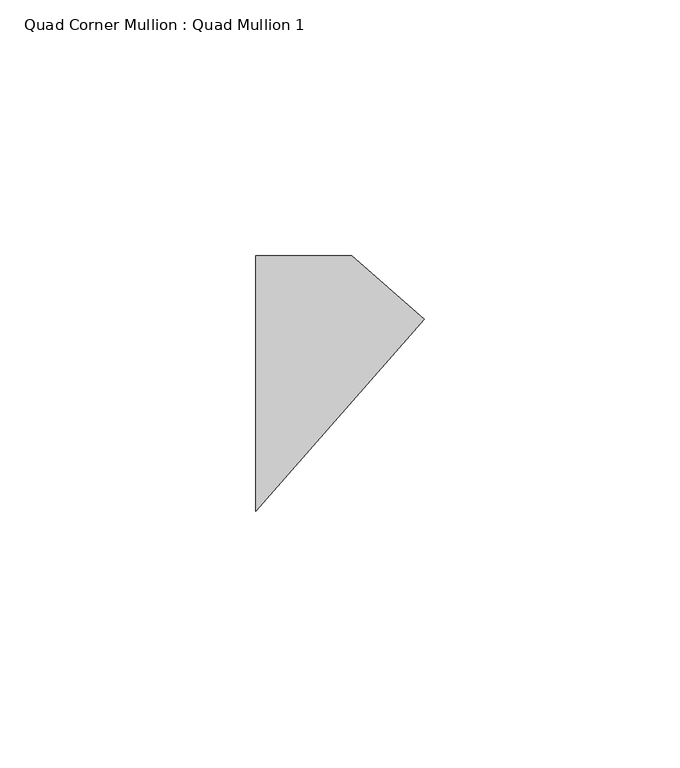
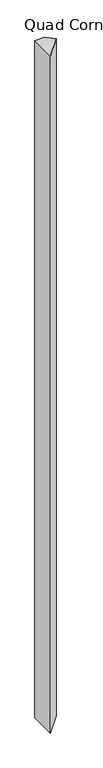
"""IFC4 building model written with IfcOpenShell, lengths in millimetres: member geometry, Quad Corner Mullion : Quad Mullion 1."""

from ifc_helpers import new_model, si_unit, frame, origin, place, context, project, spatial, polyline, outline, extrude, source, transform, mapped, element, save


def quad_corner_mullion_quad_mullion_1_ce18bc8e(model_context):
    return source(origin(), model_context, "Body", "SweptSolid", [
        extrude(outline(polyline([(23.5710612, 12.5734516), (-9.417357, -25.0), (-9.417357, 25.0), (9.417357, 25.0), (23.5710612, 12.5734516)])), frame((0.0, 0.0, -1340.0), z_axis=(0.0, 0.0, 1.0), x_axis=(1.0, 0.0, 0.0)), (0.0, 0.0, 1.0), 1340.0),
    ])


if __name__ == "__main__":
    model = new_model("IFC4")
    model_context = context("Model", 3, world=origin())
    ifc_project = project(units=[si_unit("LENGTHUNIT", "METRE", prefix="MILLI")], contexts=[model_context])
    site = spatial("IfcSite", under=ifc_project)
    building = spatial("IfcBuilding", under=site)
    placement = place(None, origin())
    quad_corner_mullion_quad_mullion_1_shape = quad_corner_mullion_quad_mullion_1_ce18bc8e(model_context)
    element("IfcMember", 1, ObjectType="Quad Corner Mullion : Quad Mullion 1", at=placement, inside=building, context=model_context, shape_type="MappedRepresentation", body=[
        mapped(quad_corner_mullion_quad_mullion_1_shape, transform((0.0, 0.0, 0.0), x_axis=(1.0, 0.0, 0.0), y_axis=(0.0, 1.0, 0.0), z_axis=(0.0, 0.0, 1.0))),
    ])
    save(model, "model.ifc")
